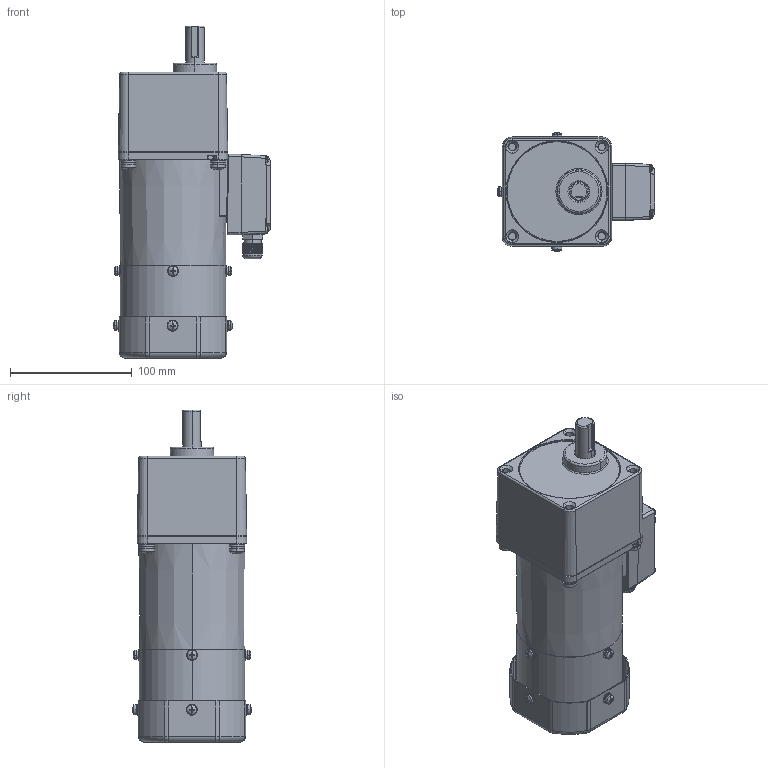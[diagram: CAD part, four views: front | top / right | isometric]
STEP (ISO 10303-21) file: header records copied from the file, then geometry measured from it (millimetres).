
FILE_DESCRIPTION (( 'STEP AP203' ), '1' );
FILE_NAME ('5RK60GU-CMFT(5GU3KB-200KB).STEP', '2020-04-09T08:55:33', ( 'Windows 蚚誧' ), ( '' ), 'SwSTEP 2.0', 'SolidWorks 2019', '' );
FILE_SCHEMA (( 'CONFIG_CONTROL_DESIGN' ));
Length unit declared in the file: millimetre
Products named in the file (12): 5GU3KB-200KB; 70TSJXHG(2)^70TSJXHG.STEP; 5RK60GU-CMFT(5GU3KB-200KB); 70TSJXHG.STEP; 90SCZ; 9040TSJXHJK; 5RK40A-CMT; TSJXH^70TSJXHG(2)_70TSJXHG.STEP; 90FZ; M14SJQ^70TSJXHG(2)_70TSJXHG.STEP; 5RK60A-CMFT; M3^70TSJXHG(2)_70TSJXHG.STEP
Assembly tree (14 placements, depth 6):
  5RK60GU-CMFT(5GU3KB-200KB)
    5RK60A-CMFT
      5RK40A-CMT
        9040TSJXHJK
        70TSJXHG.STEP
          70TSJXHG(2)^70TSJXHG.STEP
            TSJXH^70TSJXHG(2)_70TSJXHG.STEP
            M14SJQ^70TSJXHG(2)_70TSJXHG.STEP
            M3^70TSJXHG(2)_70TSJXHG.STEP  x4
        90SCZ
      90FZ
    5GU3KB-200KB
Bounding box: 129.69 x 98.11 x 273 mm (x, y, z)
Volume: 793780 mm3; surface area: 236043.3 mm2
Topology: 49 solids, 50 shells, 2056 faces, 5311 edges, 3380 vertices
Faces by surface type: cylinder 784, plane 593, cone 419, torus 158, sphere 66, bspline 36
Entity records: 59696 total; most frequent: CARTESIAN_POINT 16994, DIRECTION 9125, ORIENTED_EDGE 8558, EDGE_CURVE 4279, AXIS2_PLACEMENT_3D 3738, VERTEX_POINT 2760, CIRCLE 2084, EDGE_LOOP 1811
